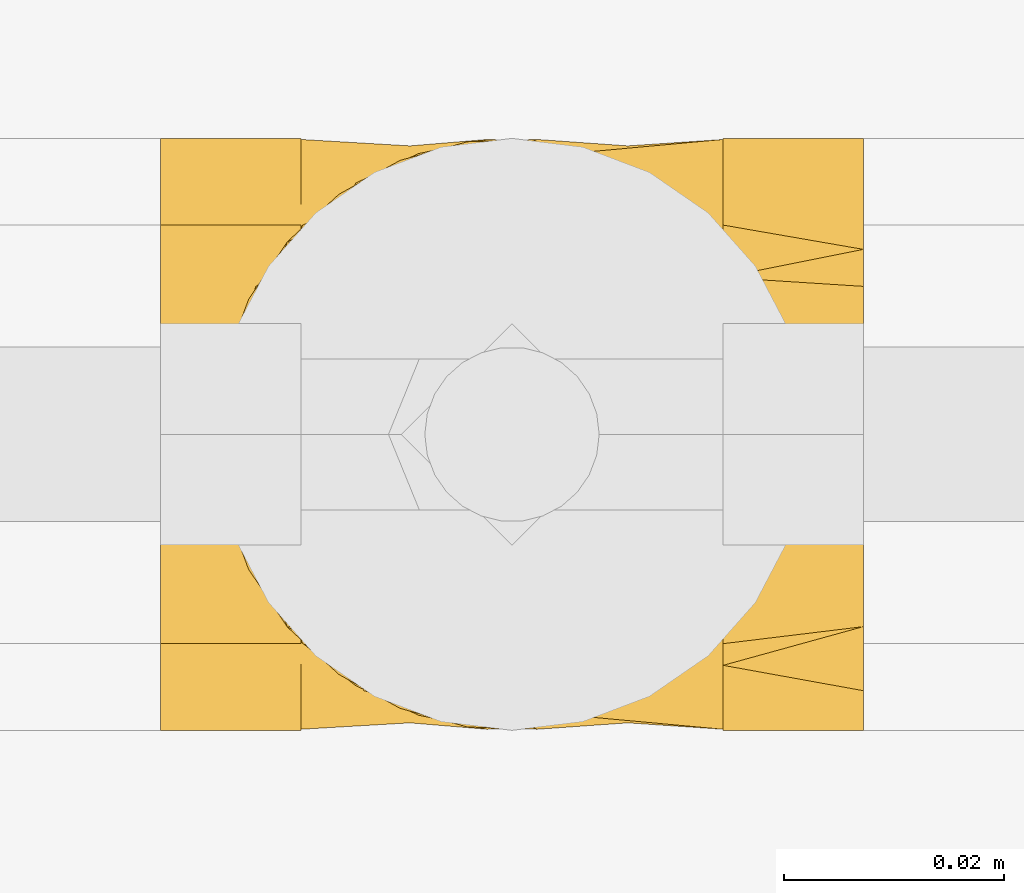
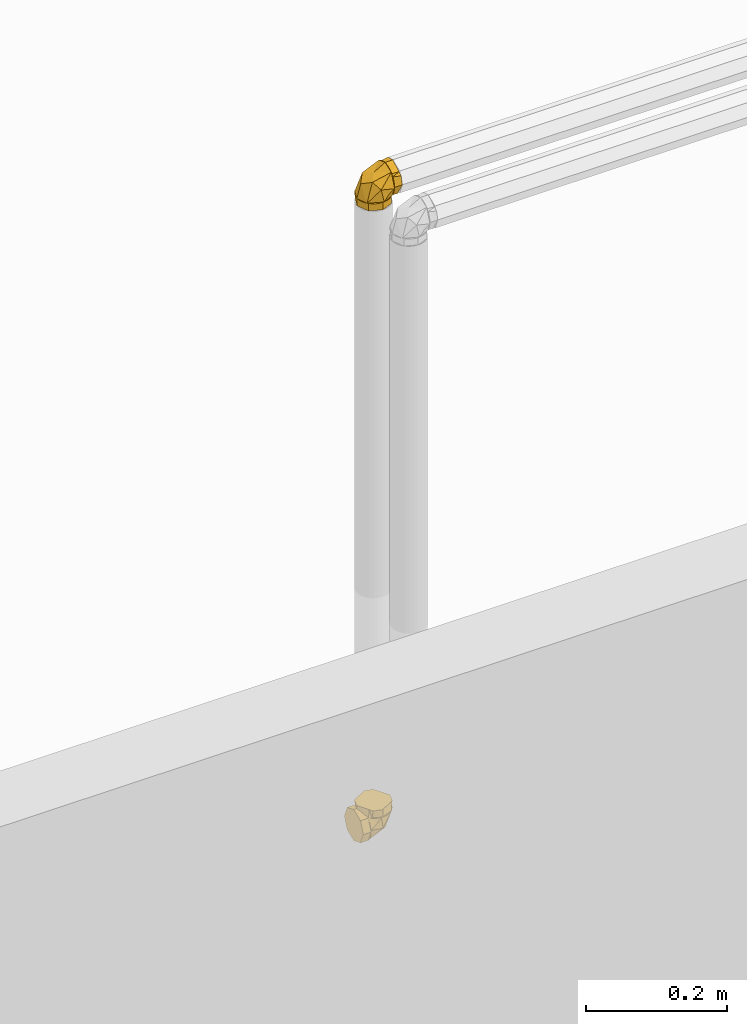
# One storey, part 287 of 652: 2 coverings.
"""IFC2X3 building model written with IfcOpenShell, lengths in millimetres."""

from ifc_helpers import new_model, entity, si_unit, converted_unit, direction, frame, origin, place, context, subcontext, project, spatial, face_set, surface_model, material, type_object, element, save


model = new_model("IFC2X3")

# Units and contexts
model_context = context("Model", 3, precision=0.01, world=frame((0.0, 0.0, 308426.39999999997)), true_north=direction((6.123233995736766e-17, 1.0)))
plan_context = context("Plan", 3, precision=0.01, world=frame((0.0, 0.0, 308426.39999999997)), true_north=direction((6.123233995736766e-17, 1.0)))
body_context = subcontext(model_context, "Body", "Model", "MODEL_VIEW")
ifc_project = project(units=[si_unit("LENGTHUNIT", "METRE", prefix="MILLI"), si_unit("AREAUNIT", "SQUARE_METRE"), si_unit("VOLUMEUNIT", "CUBIC_METRE"), converted_unit("PLANEANGLEUNIT", "DEGREE", entity("IfcPlaneAngleMeasure", 0.017453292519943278), si_unit("PLANEANGLEUNIT", "RADIAN"), dimensions=[0, 0, 0, 0, 0, 0, 0])], contexts=[model_context, plan_context])

# Site, building, storey
site_placement = place(None, origin())
site = spatial("IfcSite", under=ifc_project, at=site_placement, Name="Default", CompositionType="ELEMENT")
building_placement = place(site_placement, origin())
building = spatial("IfcBuilding", under=site, at=building_placement, CompositionType="ELEMENT")
storey_placement = place(building_placement, frame((0.0, 0.0, 1730.6999999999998)))
storey = spatial("IfcBuildingStorey", under=building, at=storey_placement, Name="EG_Produktion_FFB", CompositionType="ELEMENT", Elevation=1730.6999999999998)

# Coverings
ifc_material = material(Name="Dämmung - Armaflex-Schlauch")
covering_type = type_object("IfcCoveringType", Name="Rohrdämmung außen:Armaflex-Schlauch", PredefinedType="INSULATION")
covering_1_placement = place(storey_placement, frame((22732.37843313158, 36553.50378550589, 2671.467227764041)))
element("IfcCovering", 1, at=covering_1_placement, inside=storey, type_object=covering_type, material=ifc_material, Name="Rohrdämmung außen:Armaflex-Schlauch", ObjectType="Rohrdämmung außen:Armaflex-Schlauch", PredefinedType="INSULATION", context=body_context, shape_type="SurfaceModel", body=[
    surface_model("IfcFaceBasedSurfaceModel", [(12.766250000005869, 47.40912251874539, 47.75027223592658), (12.766250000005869, 51.38658262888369, 42.79223424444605), (12.766250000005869, 54.0915642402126, 37.040242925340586), (12.766250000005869, 55.37345654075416, 30.81456370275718), (12.766250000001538, 55.16088498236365, 24.46183649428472), (12.766250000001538, 53.46568534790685, 18.33577512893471), (12.766250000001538, 50.38224474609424, 12.777472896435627), (12.766250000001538, 46.08224622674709, 8.096410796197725), (12.766250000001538, 40.80510963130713, 4.553225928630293), (12.766250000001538, 34.84466092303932, 2.3451994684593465), (12.766250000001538, 28.532772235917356, 1.5952722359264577), (12.766250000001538, 22.220883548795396, 2.3451994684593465), (12.766250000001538, 16.26043484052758, 4.553225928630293), (12.766250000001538, 10.983298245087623, 8.096410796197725), (12.766250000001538, 6.683299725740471, 12.777472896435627), (12.766250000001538, 3.5998591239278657, 18.33577512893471), (12.766250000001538, 1.9046594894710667, 24.46183649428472), (12.766250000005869, 1.6920879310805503, 30.81456370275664), (12.766250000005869, 2.973980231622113, 37.04024292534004), (12.766250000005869, 5.678961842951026, 42.79223424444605), (12.766250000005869, 9.65642195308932, 47.75027223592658), (17.72428799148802, 5.678961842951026, 47.75027223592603), (23.476279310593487, 2.973980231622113, 47.75027223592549), (29.701958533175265, 1.6920879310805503, 47.75027223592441), (36.05468574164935, 1.9046594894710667, 47.75027223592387), (42.180747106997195, 3.5998591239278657, 47.750272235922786), (47.739049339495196, 6.683299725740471, 47.750272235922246), (52.420111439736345, 10.983298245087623, 47.750272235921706), (55.96329630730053, 16.26043484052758, 47.750272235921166), (58.17132276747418, 22.220883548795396, 47.750272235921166), (58.92125000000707, 28.532772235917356, 47.750272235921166), (58.17132276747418, 34.84466092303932, 47.750272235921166), (55.96329630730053, 40.80510963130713, 47.750272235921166), (52.420111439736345, 46.08224622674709, 47.750272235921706), (47.739049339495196, 50.38224474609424, 47.750272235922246), (42.180747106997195, 53.46568534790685, 47.750272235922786), (36.05468574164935, 55.16088498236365, 47.75027223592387), (29.701958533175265, 55.37345654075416, 47.75027223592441), (23.476279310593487, 54.0915642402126, 47.75027223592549), (17.72428799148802, 51.38658262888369, 47.75027223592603), (22.709365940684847, 54.78959217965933, 39.06982362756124), (35.84344797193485, 28.533055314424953, 7.779001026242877), (12.765786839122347, 50.72704945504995, 19.455613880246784), (33.56451730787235, 53.4664171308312, 26.95108659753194), (43.18486032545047, 42.78102284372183, 18.674847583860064), (48.3775666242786, 28.533055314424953, 29.486687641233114), (41.06173410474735, 50.72704945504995, 47.750398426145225), (43.18486032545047, 14.285087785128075, 18.674847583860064), (33.56451730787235, 3.5996934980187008, 26.95108659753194), (22.709365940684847, 2.2765184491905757, 39.06982362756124), (41.06173410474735, 6.336735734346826, 47.750398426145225), (12.765786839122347, 6.336735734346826, 19.455613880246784), (0.0, 28.532772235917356, 1.5952722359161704), (0.0, 23.770850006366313, 3.567725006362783), (0.0, 19.008927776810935, 5.540177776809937), (0.0, 14.247005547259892, 7.51263054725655), (0.0, 9.485083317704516, 9.485083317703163), (0.0, 7.512630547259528, 14.247005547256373), (0.0, 5.540177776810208, 19.008927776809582), (0.0, 3.5677250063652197, 23.770850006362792), (0.0, 1.5952722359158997, 28.532772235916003), (0.0, 3.567725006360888, 33.29469446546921), (0.0, 5.540177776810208, 38.05661669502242), (0.0, 7.512630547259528, 42.818538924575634), (0.0, 9.485083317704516, 47.5804611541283), (0.0, 14.247005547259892, 49.552913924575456), (0.0, 19.008927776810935, 51.525366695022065), (0.0, 23.770850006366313, 53.49781946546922), (0.0, 28.532772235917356, 55.470272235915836), (0.0, 33.2946944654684, 53.49781946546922), (0.0, 38.05661669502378, 51.525366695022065), (0.0, 42.81853892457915, 49.552913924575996), (0.0, 47.5804611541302, 47.58046115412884), (0.0, 49.552913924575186, 42.818538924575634), (0.0, 51.5253666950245, 38.05661669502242), (0.0, 53.497819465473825, 33.29469446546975), (0.0, 55.47027223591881, 28.532772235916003), (0.0, 53.49781946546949, 23.770850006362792), (0.0, 51.5253666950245, 19.008927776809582), (0.0, 49.552913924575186, 14.247005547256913), (0.0, 47.5804611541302, 9.485083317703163), (0.0, 42.81853892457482, 7.512630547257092), (0.0, 38.05661669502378, 5.540177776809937), (0.0, 33.29469446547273, 3.567725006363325), (12.766250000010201, 28.532772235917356, 1.5952722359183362), (12.766250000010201, 33.2946944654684, 3.567725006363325), (12.766250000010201, 38.05661669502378, 5.540177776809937), (12.766250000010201, 42.81853892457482, 7.512630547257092), (12.766250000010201, 47.5804611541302, 9.485083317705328), (12.766250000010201, 49.96980627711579, 15.253472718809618), (12.766250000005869, 52.35915140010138, 21.021862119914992), (12.766250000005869, 55.47027223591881, 28.532772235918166), (12.766250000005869, 53.497819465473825, 33.29469446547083), (12.766250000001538, 51.5253666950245, 38.05661669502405), (12.766250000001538, 49.552913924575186, 42.818538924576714), (12.766250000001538, 47.5804611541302, 47.58046115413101), (12.766250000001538, 41.81207175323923, 49.96980627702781), (12.766250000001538, 36.04368235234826, 52.359151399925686), (12.766250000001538, 28.532772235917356, 55.470272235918), (12.766250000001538, 23.770850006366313, 53.49781946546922), (12.766250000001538, 19.008927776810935, 51.52536669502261), (12.766250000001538, 14.24700554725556, 49.552913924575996), (12.766250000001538, 9.485083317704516, 47.58046115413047), (12.766250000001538, 7.095738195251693, 41.81207175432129), (12.766250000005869, 4.706393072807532, 36.04368235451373), (12.766250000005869, 1.5952722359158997, 28.532772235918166), (12.766250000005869, 3.5677250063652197, 23.77085000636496), (12.766250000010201, 5.540177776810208, 19.008927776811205), (12.766250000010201, 7.512630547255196, 14.247005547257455), (12.766250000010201, 9.485083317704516, 9.485083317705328), (12.766250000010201, 15.253472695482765, 7.09573820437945), (12.766250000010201, 21.021862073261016, 4.706393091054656), (58.92125000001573, 28.532772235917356, 60.516522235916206), (55.554062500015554, 34.36491206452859, 60.5165222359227), (52.18687500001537, 40.197051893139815, 60.51652223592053), (48.819687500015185, 46.02919172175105, 60.516522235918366), (45.45250000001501, 51.86133155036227, 60.516522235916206), (38.718125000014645, 53.66580189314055, 60.516522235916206), (31.98375000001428, 55.47027223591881, 60.516522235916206), (26.151610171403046, 52.10308473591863, 60.51652223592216), (20.319470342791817, 48.73589723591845, 60.51652223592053), (14.487330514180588, 45.368709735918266, 60.516522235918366), (8.655190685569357, 42.00152223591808, 60.516522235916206), (6.85072034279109, 35.26714723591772, 60.516522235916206), (5.046250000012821, 28.532772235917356, 60.516522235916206), (8.413437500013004, 22.700632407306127, 60.5165222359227), (11.780625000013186, 16.868492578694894, 60.51652223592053), (15.147812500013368, 11.036352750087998, 60.51652223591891), (18.51500000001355, 5.204212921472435, 60.516522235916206), (25.249375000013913, 3.3997425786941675, 60.516522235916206), (31.98375000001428, 1.5952722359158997, 60.516522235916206), (37.81588982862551, 4.962459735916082, 60.5165222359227), (43.64802965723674, 8.329647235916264, 60.51652223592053), (49.480169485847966, 11.696834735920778, 60.51652223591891), (55.3123093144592, 15.064022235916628, 60.516522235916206), (57.116779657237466, 21.79839723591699, 60.516522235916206), (58.921250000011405, 28.532772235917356, 47.75027223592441), (56.948797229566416, 23.77085000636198, 47.75027223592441), (54.97634445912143, 19.008927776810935, 47.75027223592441), (53.003891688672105, 14.24700554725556, 47.75027223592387), (51.03143891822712, 9.485083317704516, 47.75027223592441), (46.26951668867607, 7.512630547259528, 47.75027223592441), (41.507594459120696, 5.540177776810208, 47.75027223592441), (36.74567222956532, 3.5677250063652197, 47.75027223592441), (31.98375000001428, 1.5952722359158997, 47.75027223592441), (27.221827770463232, 3.567725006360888, 47.75027223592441), (22.459905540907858, 5.540177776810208, 47.75027223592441), (17.697983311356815, 7.512630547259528, 47.75027223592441), (12.936061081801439, 9.485083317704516, 47.75027223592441), (10.963608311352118, 14.247005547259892, 47.75027223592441), (8.99115554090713, 19.008927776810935, 47.75027223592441), (7.01870277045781, 23.770850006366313, 47.75027223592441), (5.046250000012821, 28.532772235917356, 47.75027223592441), (7.018702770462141, 33.29469446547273, 47.75027223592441), (8.99115554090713, 38.05661669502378, 47.75027223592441), (10.96360831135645, 42.81853892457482, 47.75027223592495), (12.936061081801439, 47.5804611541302, 47.75027223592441), (17.697983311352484, 49.552913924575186, 47.75027223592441), (22.459905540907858, 51.5253666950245, 47.75027223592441), (27.221827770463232, 53.497819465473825, 47.75027223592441), (31.98375000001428, 55.47027223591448, 47.75027223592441), (36.74567222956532, 53.497819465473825, 47.75027223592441), (41.507594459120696, 51.5253666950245, 47.75027223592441), (46.26951668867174, 49.552913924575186, 47.75027223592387), (51.03143891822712, 47.5804611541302, 47.75027223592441), (53.00389168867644, 42.81853892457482, 47.75027223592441), (54.97634445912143, 38.05661669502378, 47.75027223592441), (56.948797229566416, 33.29469446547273, 47.75027223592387)], [face_set([[[0, 1, 2, 3, 4, 5, 6, 7, 8, 9, 10, 11, 12, 13, 14, 15, 16, 17, 18, 19]], [[20, 21, 22, 23, 24, 25, 26, 27, 28, 29, 30, 31, 32, 33, 34, 35, 36, 37, 38, 39]], [[0, 40, 3]], [[10, 7, 41]], [[42, 3, 43]], [[40, 43, 3]], [[37, 40, 0]], [[7, 43, 44]], [[45, 41, 44]], [[7, 44, 41]], [[33, 30, 45]], [[45, 44, 33]], [[43, 33, 44]], [[43, 37, 46]], [[43, 7, 42]], [[37, 43, 40]], [[46, 33, 43]], [[13, 10, 41]], [[27, 47, 45]], [[45, 30, 27]], [[48, 47, 27]], [[49, 48, 23]], [[48, 50, 23]], [[45, 47, 41]], [[20, 49, 23]], [[47, 48, 13]], [[17, 49, 20]], [[41, 47, 13]], [[48, 17, 51]], [[48, 27, 50]], [[17, 48, 49]], [[51, 13, 48]]]), face_set([[[52, 53, 54, 55, 56, 57, 58, 59, 60, 61, 62, 63, 64, 65, 66, 67, 68, 69, 70, 71, 72, 73, 74, 75, 76, 77, 78, 79, 80, 81, 82, 83]], [[84, 85, 86, 87, 88, 89, 90, 91, 92, 93, 94, 95, 96, 97, 98, 99, 100, 101, 102, 103, 104, 105, 106, 107, 108, 109, 110, 111]], [[111, 110, 109, 56, 55, 54, 53, 52, 84]], [[56, 109, 108, 107, 106, 105, 60, 59, 58, 57]], [[104, 103, 102, 64, 63, 62, 61, 60, 105]], [[64, 102, 101, 100, 99, 98, 68, 67, 66, 65]], [[97, 96, 95, 72, 71, 70, 69, 68, 98]], [[72, 95, 94, 93, 92, 91, 76, 75, 74, 73]], [[90, 89, 88, 80, 79, 78, 77, 76, 91]], [[80, 88, 87, 86, 85, 84, 52, 83, 82, 81]]]), face_set([[[112, 113, 114, 115, 116, 117, 118, 119, 120, 121, 122, 123, 124, 125, 126, 127, 128, 129, 130, 131, 132, 133, 134, 135]], [[136, 137, 138, 139, 140, 141, 142, 143, 144, 145, 146, 147, 148, 149, 150, 151, 152, 153, 154, 155, 156, 157, 158, 159, 160, 161, 162, 163, 164, 165, 166, 167]], [[155, 121, 156]], [[118, 159, 119]], [[159, 158, 119]], [[123, 154, 153]], [[153, 152, 124]], [[121, 155, 122]], [[120, 158, 157]], [[118, 160, 159]], [[158, 120, 119]], [[124, 123, 153]], [[157, 156, 121]], [[155, 154, 122]], [[123, 122, 154]], [[120, 157, 121]], [[163, 115, 164]], [[112, 167, 113]], [[167, 166, 113]], [[117, 162, 161]], [[161, 160, 118]], [[115, 163, 116]], [[114, 166, 165]], [[112, 136, 167]], [[166, 114, 113]], [[118, 117, 161]], [[165, 164, 115]], [[163, 162, 116]], [[117, 116, 162]], [[114, 165, 115]], [[139, 133, 140]], [[130, 143, 131]], [[143, 142, 131]], [[135, 138, 137]], [[137, 136, 112]], [[133, 139, 134]], [[132, 142, 141]], [[130, 144, 143]], [[142, 132, 131]], [[112, 135, 137]], [[141, 140, 133]], [[139, 138, 134]], [[135, 134, 138]], [[132, 141, 133]], [[147, 127, 148]], [[124, 151, 125]], [[151, 150, 125]], [[129, 146, 145]], [[145, 144, 130]], [[127, 147, 128]], [[126, 150, 149]], [[124, 152, 151]], [[150, 126, 125]], [[130, 129, 145]], [[149, 148, 127]], [[147, 146, 128]], [[129, 128, 146]], [[126, 149, 127]]])]),
])
covering_2_placement = place(storey_placement, frame((22735.829410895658, 36553.50378550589, 3768.0162500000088)))
element("IfcCovering", 2, at=covering_2_placement, inside=storey, type_object=covering_type, material=ifc_material, Name="Rohrdämmung außen:Armaflex-Schlauch", ObjectType="Rohrdämmung außen:Armaflex-Schlauch", PredefinedType="INSULATION", context=body_context, shape_type="SurfaceModel", body=[
    surface_model("IfcFaceBasedSurfaceModel", [(47.75027223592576, 9.65642195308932, 12.766250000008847), (42.79223424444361, 5.678961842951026, 12.766250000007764), (37.04024292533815, 2.973980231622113, 12.766250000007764), (30.81456370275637, 1.6920879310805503, 12.76625000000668), (24.461836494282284, 1.9046594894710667, 12.766250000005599), (18.33577512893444, 3.5998591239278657, 12.766250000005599), (12.77747289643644, 6.683299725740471, 12.766250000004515), (8.09641079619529, 10.983298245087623, 12.766250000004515), (4.553225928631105, 16.26043484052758, 12.766250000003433), (2.3451994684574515, 22.220883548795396, 12.766250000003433), (1.5952722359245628, 28.532772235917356, 12.766250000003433), (2.3451994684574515, 34.84466092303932, 12.766250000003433), (4.553225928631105, 40.80510963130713, 12.766250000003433), (8.09641079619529, 46.08224622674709, 12.766250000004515), (12.77747289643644, 50.38224474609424, 12.766250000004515), (18.33577512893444, 53.46568534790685, 12.766250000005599), (24.461836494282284, 55.16088498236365, 12.766250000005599), (30.81456370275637, 55.37345654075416, 12.76625000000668), (37.04024292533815, 54.0915642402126, 12.766250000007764), (42.79223424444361, 51.38658262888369, 12.766250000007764), (47.75027223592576, 47.40912251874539, 12.766250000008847), (47.75027223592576, 5.678961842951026, 17.72428799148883), (47.75027223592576, 2.973980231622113, 23.47627931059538), (47.75027223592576, 1.6920879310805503, 29.701958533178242), (47.750272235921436, 1.9046594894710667, 36.05468574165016), (47.750272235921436, 3.5998591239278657, 42.18074710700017), (47.750272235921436, 6.683299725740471, 47.73904933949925), (47.750272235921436, 10.983298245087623, 52.420111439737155), (47.750272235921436, 16.26043484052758, 55.96329630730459), (47.750272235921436, 22.220883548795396, 58.17132276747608), (47.750272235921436, 28.532772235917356, 58.92125000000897), (47.750272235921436, 34.84466092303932, 58.17132276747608), (47.750272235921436, 40.80510963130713, 55.963296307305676), (47.750272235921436, 46.08224622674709, 52.42011143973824), (47.750272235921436, 50.38224474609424, 47.73904933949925), (47.750272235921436, 53.46568534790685, 42.18074710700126), (47.750272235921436, 55.16088498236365, 36.05468574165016), (47.75027223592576, 55.37345654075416, 29.701958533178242), (47.75027223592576, 54.0915642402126, 23.47627931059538), (47.75027223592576, 51.38658262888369, 17.724287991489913), (39.06880687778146, 2.2765184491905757, 22.708937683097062), (7.7800190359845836, 28.533055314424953, 35.84360107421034), (26.950941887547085, 3.5996934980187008, 33.56525177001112), (19.456050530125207, 6.336735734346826, 12.766521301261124), (29.485670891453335, 28.533055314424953, 48.37655700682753), (18.67470287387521, 14.285087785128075, 43.183850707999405), (47.74967235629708, 6.336735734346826, 41.061305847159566), (18.67470287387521, 42.78102284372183, 43.183850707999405), (39.06880687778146, 54.78959217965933, 22.708937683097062), (26.950941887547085, 53.4664171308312, 33.56525177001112), (47.74967235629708, 50.72704945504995, 41.061305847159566), (19.456050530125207, 50.72704945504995, 12.766521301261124), (1.5952722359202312, 28.532772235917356, 0.0), (3.567725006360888, 33.29469446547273, 0.0), (5.540177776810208, 38.05661669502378, 0.0), (7.512630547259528, 42.81853892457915, 0.0), (9.485083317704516, 47.5804611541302, 0.0), (14.247005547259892, 49.552913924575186, 0.0), (19.008927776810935, 51.5253666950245, 0.0), (23.77085000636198, 53.497819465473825, 0.0), (28.532772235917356, 55.47027223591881, 0.0), (33.2946944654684, 53.49781946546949, 0.0), (38.05661669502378, 51.5253666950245, 0.0), (42.81853892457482, 49.552913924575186, 0.0), (47.5804611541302, 47.5804611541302, 0.0), (49.552913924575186, 42.81853892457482, 0.0), (51.5253666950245, 38.05661669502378, 0.0), (53.497819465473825, 33.29469446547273, 0.0), (55.47027223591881, 28.532772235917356, 0.0), (53.49781946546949, 23.77085000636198, 0.0), (51.5253666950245, 19.008927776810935, 0.0), (49.552913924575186, 14.247005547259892, 0.0), (47.5804611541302, 9.485083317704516, 0.0), (42.81853892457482, 7.512630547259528, 0.0), (38.05661669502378, 5.540177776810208, 0.0), (33.29469446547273, 3.5677250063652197, 0.0), (28.532772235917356, 1.5952722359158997, 0.0), (23.770850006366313, 3.567725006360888, 0.0), (19.008927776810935, 5.540177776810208, 0.0), (14.24700554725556, 7.512630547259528, 0.0), (9.485083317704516, 9.485083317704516, 0.0), (7.512630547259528, 14.24700554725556, 0.0), (5.540177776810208, 19.008927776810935, 0.0), (3.5677250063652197, 23.770850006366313, 0.0), (1.5952722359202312, 28.532772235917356, 12.766250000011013), (3.567725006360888, 23.77085000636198, 12.766250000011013), (5.540177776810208, 19.008927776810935, 12.76625000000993), (7.512630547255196, 14.247005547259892, 12.76625000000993), (9.485083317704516, 9.485083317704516, 12.76625000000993), (15.253472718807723, 7.095738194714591, 12.766250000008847), (21.021862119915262, 4.706393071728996, 12.766250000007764), (28.532772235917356, 1.5952722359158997, 12.76625000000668), (33.29469446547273, 3.5677250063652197, 12.766250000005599), (38.056616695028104, 5.540177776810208, 12.766250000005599), (42.81853892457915, 7.512630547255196, 12.766250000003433), (47.5804611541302, 9.485083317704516, 12.766250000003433), (49.96980627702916, 15.253472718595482, 12.766250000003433), (52.35915139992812, 21.021862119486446, 12.76625000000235), (55.47027223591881, 28.532772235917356, 12.76625000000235), (53.49781946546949, 33.29469446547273, 12.76625000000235), (51.5253666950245, 38.05661669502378, 12.766250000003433), (49.552913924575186, 42.81853892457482, 12.766250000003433), (47.5804611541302, 47.5804611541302, 12.766250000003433), (41.8120717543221, 49.96980627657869, 12.766250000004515), (36.043682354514, 52.35915139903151, 12.766250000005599), (28.532772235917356, 55.47027223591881, 12.76625000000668), (23.77085000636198, 53.497819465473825, 12.766250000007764), (19.008927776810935, 51.5253666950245, 12.766250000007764), (14.24700554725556, 49.552913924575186, 12.766250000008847), (9.485083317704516, 47.5804611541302, 12.76625000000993), (7.0957382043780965, 41.81207177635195, 12.76625000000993), (4.706393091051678, 36.0436823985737, 12.766250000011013), (60.51652223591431, 28.532772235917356, 58.92125000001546), (60.51652223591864, 22.700632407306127, 55.554062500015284), (60.51652223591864, 16.868492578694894, 52.1868750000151), (60.51652223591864, 11.036352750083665, 48.819687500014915), (60.51652223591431, 5.204212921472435, 45.45250000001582), (60.51652223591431, 3.3997425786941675, 38.718125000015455), (60.51652223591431, 1.5952722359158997, 31.98375000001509), (60.51652223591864, 4.962459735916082, 26.151610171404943), (60.51652223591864, 8.329647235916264, 20.319470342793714), (60.51652223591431, 11.696834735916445, 14.487330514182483), (60.51652223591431, 15.064022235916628, 8.655190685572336), (60.51652223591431, 21.79839723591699, 6.850720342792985), (60.51652223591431, 28.532772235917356, 5.046250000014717), (60.51652223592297, 34.36491206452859, 8.413437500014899), (60.51652223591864, 40.197051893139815, 11.78062500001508), (60.51652223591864, 46.029191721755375, 15.147812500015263), (60.51652223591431, 51.86133155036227, 18.515000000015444), (60.51652223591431, 53.66580189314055, 25.24937500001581), (60.51652223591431, 55.47027223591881, 31.98375000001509), (60.51652223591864, 52.10308473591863, 37.81588982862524), (60.51652223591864, 48.73589723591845, 43.64802965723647), (60.51652223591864, 45.3687097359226, 49.480169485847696), (60.51652223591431, 42.00152223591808, 55.31230931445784), (60.51652223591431, 35.26714723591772, 57.116779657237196), (47.75027223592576, 28.532772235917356, 58.92125000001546), (47.75027223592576, 33.2946944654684, 56.94879722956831), (47.75027223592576, 38.05661669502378, 54.97634445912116), (47.75027223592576, 42.81853892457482, 53.003891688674), (47.75027223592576, 47.5804611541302, 51.03143891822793), (47.75027223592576, 49.552913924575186, 46.26951668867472), (47.75027223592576, 51.5253666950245, 41.50759445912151), (47.75027223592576, 53.497819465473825, 36.7456722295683), (47.75027223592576, 55.47027223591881, 31.98375000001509), (47.75027223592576, 53.49781946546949, 27.22182777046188), (47.75027223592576, 51.5253666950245, 22.45990554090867), (47.75027223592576, 49.552913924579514, 17.69798331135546), (47.75027223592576, 47.5804611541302, 12.93606108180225), (47.75027223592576, 42.81853892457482, 10.963608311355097), (47.75027223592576, 38.05661669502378, 8.991155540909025), (47.75027223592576, 33.29469446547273, 7.0187027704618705), (47.75027223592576, 28.532772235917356, 5.0462500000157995), (47.75027223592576, 23.77085000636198, 7.0187027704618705), (47.75027223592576, 19.008927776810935, 8.991155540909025), (47.75027223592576, 14.247005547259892, 10.963608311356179), (47.75027223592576, 9.485083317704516, 12.93606108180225), (47.75027223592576, 7.512630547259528, 17.69798331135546), (47.75027223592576, 5.540177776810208, 22.45990554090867), (47.75027223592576, 3.5677250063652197, 27.22182777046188), (47.75027223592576, 1.5952722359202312, 31.98375000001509), (47.75027223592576, 3.5677250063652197, 36.7456722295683), (47.75027223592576, 5.540177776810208, 41.50759445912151), (47.75027223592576, 7.512630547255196, 46.26951668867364), (47.75027223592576, 9.485083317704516, 51.03143891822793), (47.75027223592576, 14.247005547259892, 53.00389168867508), (47.75027223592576, 19.008927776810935, 54.97634445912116), (47.75027223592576, 23.77085000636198, 56.94879722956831)], [face_set([[[0, 1, 2, 3, 4, 5, 6, 7, 8, 9, 10, 11, 12, 13, 14, 15, 16, 17, 18, 19]], [[20, 21, 22, 23, 24, 25, 26, 27, 28, 29, 30, 31, 32, 33, 34, 35, 36, 37, 38, 39]], [[0, 40, 3]], [[10, 7, 41]], [[23, 42, 40]], [[42, 7, 43]], [[23, 40, 0]], [[3, 40, 42]], [[44, 41, 45]], [[7, 45, 41]], [[27, 30, 44]], [[44, 45, 27]], [[42, 27, 45]], [[42, 23, 46]], [[7, 42, 45]], [[43, 3, 42]], [[46, 27, 42]], [[13, 10, 41]], [[33, 47, 44]], [[44, 30, 33]], [[48, 49, 37]], [[49, 33, 50]], [[17, 49, 48]], [[44, 47, 41]], [[20, 48, 37]], [[47, 49, 13]], [[17, 48, 20]], [[41, 47, 13]], [[49, 17, 51]], [[33, 49, 47]], [[50, 37, 49]], [[51, 13, 49]]]), face_set([[[52, 53, 54, 55, 56, 57, 58, 59, 60, 61, 62, 63, 64, 65, 66, 67, 68, 69, 70, 71, 72, 73, 74, 75, 76, 77, 78, 79, 80, 81, 82, 83]], [[84, 85, 86, 87, 88, 89, 90, 91, 92, 93, 94, 95, 96, 97, 98, 99, 100, 101, 102, 103, 104, 105, 106, 107, 108, 109, 110, 111]], [[111, 110, 109, 56, 55, 54, 53, 52, 84]], [[56, 109, 108, 107, 106, 105, 60, 59, 58, 57]], [[104, 103, 102, 64, 63, 62, 61, 60, 105]], [[64, 102, 101, 100, 99, 98, 68, 67, 66, 65]], [[97, 96, 95, 72, 71, 70, 69, 68, 98]], [[72, 95, 94, 93, 92, 91, 76, 75, 74, 73]], [[90, 89, 88, 80, 79, 78, 77, 76, 91]], [[80, 88, 87, 86, 85, 84, 52, 83, 82, 81]]]), face_set([[[112, 113, 114, 115, 116, 117, 118, 119, 120, 121, 122, 123, 124, 125, 126, 127, 128, 129, 130, 131, 132, 133, 134, 135]], [[136, 137, 138, 139, 140, 141, 142, 143, 144, 145, 146, 147, 148, 149, 150, 151, 152, 153, 154, 155, 156, 157, 158, 159, 160, 161, 162, 163, 164, 165, 166, 167]], [[155, 121, 156]], [[118, 159, 119]], [[159, 158, 119]], [[123, 154, 153]], [[153, 152, 124]], [[121, 155, 122]], [[120, 158, 157]], [[118, 160, 159]], [[158, 120, 119]], [[124, 123, 153]], [[157, 156, 121]], [[155, 154, 122]], [[123, 122, 154]], [[120, 157, 121]], [[163, 115, 164]], [[112, 167, 113]], [[167, 166, 113]], [[117, 162, 161]], [[161, 160, 118]], [[115, 163, 116]], [[114, 166, 165]], [[112, 136, 167]], [[166, 114, 113]], [[118, 117, 161]], [[165, 164, 115]], [[163, 162, 116]], [[117, 116, 162]], [[114, 165, 115]], [[139, 133, 140]], [[130, 143, 131]], [[143, 142, 131]], [[135, 138, 137]], [[137, 136, 112]], [[133, 139, 134]], [[132, 142, 141]], [[130, 144, 143]], [[142, 132, 131]], [[112, 135, 137]], [[141, 140, 133]], [[139, 138, 134]], [[135, 134, 138]], [[132, 141, 133]], [[147, 127, 148]], [[124, 151, 125]], [[151, 150, 125]], [[129, 146, 145]], [[145, 144, 130]], [[127, 147, 128]], [[126, 150, 149]], [[124, 152, 151]], [[150, 126, 125]], [[130, 129, 145]], [[149, 148, 127]], [[147, 146, 128]], [[129, 128, 146]], [[126, 149, 127]]])]),
])

save(model, "model.ifc")
